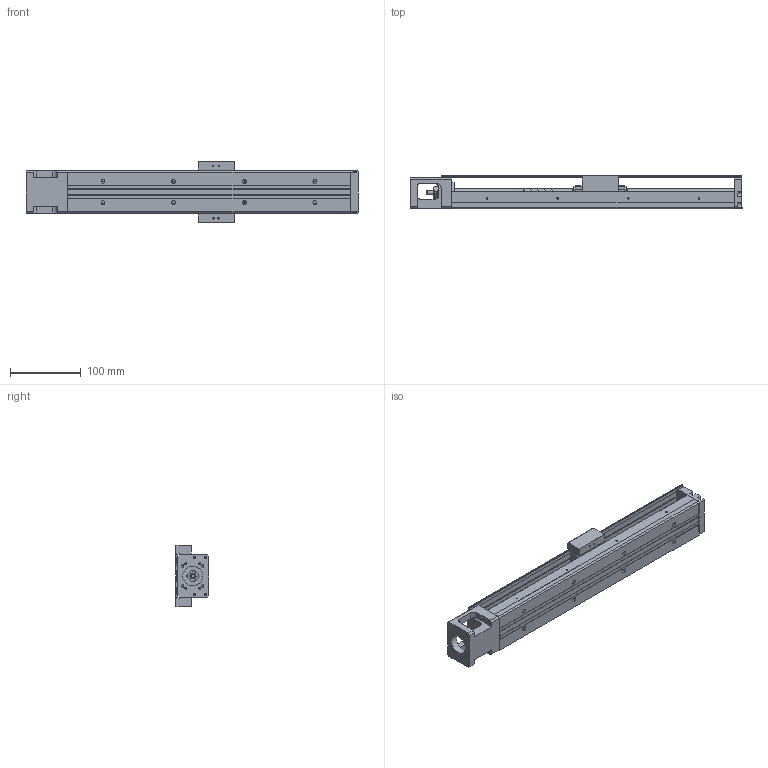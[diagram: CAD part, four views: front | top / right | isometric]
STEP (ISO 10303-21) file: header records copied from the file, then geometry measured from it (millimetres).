
FILE_DESCRIPTION(/* description */ (''),/* implementation_level */ '2;1');
FILE_NAME(/* name */ 'KP33N-400-C.stp',/* time_stamp */ '2020-06-04T14:08:53+08:00',/* author */ (''),/* organization */ (''),/* preprocessor_version */ 'ST-DEVELOPER v14',/* originating_system */ 'SIEMENS PLM Software NX 8.0',/* authorisation */ '');
FILE_SCHEMA (('AUTOMOTIVE_DESIGN { 1 0 10303 214 3 1 1 1 }'));
Length unit declared in the file: millimetre
Products named in the file (1): model1
Bounding box: 470 x 47.95 x 86 mm (x, y, z)
Volume: 633231.7 mm3; surface area: 221207.5 mm2
Topology: 7 solids, 16 shells, 737 faces, 1864 edges, 1234 vertices
Faces by surface type: plane 439, cylinder 211, bspline 31, cone 24, extrusion 21, torus 9, revolution 2
Full cylindrical faces by diameter (mm): 1.6 x6, 1.65 x4, 2.15 x4, 2.42 x4, 2.45 x8, 2.5 x18, 3 x3, 3.2 x4, 3.3 x4, 3.4 x3, 3.5 x10, 3.969 x1, 4 x6, 4.001 x1, 4.135 x4, 4.2 x4, 5.5 x8, 6 x5, 7.6 x1, 8 x5, 9.5 x8, 10.72 x3, 11.8 x2, 12 x6, 12.8 x1, 13 x2, 14 x1, 17.38 x3, 21.5 x1, 22 x2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
Entity records: 36803 total; most frequent: CARTESIAN_POINT 15978, DIRECTION 3346, ORIENTED_EDGE 3222, EDGE_CURVE 1611, AXIS2_PLACEMENT_3D 1182, VERTEX_POINT 1149, EDGE_LOOP 1050, VECTOR 980
